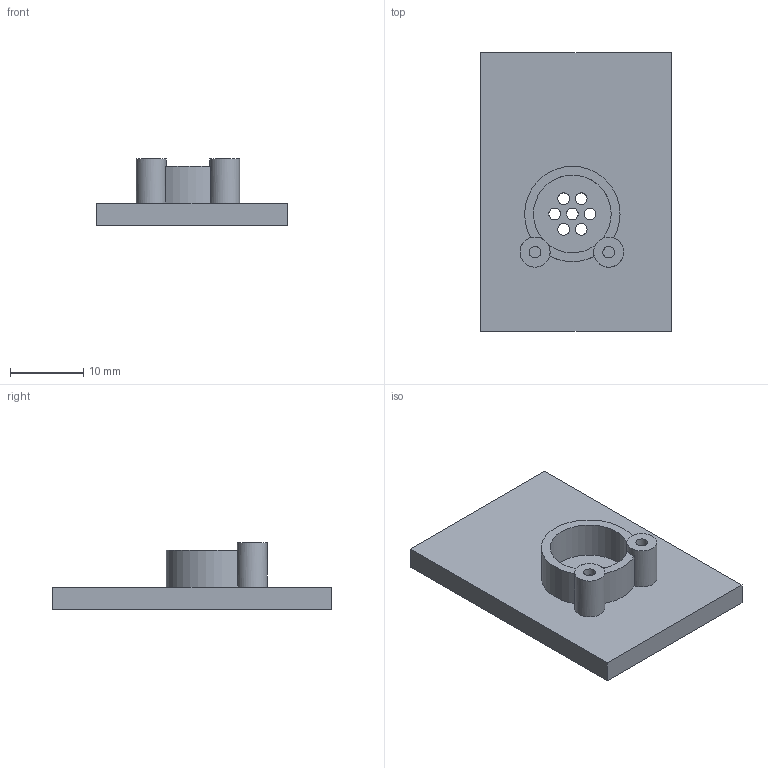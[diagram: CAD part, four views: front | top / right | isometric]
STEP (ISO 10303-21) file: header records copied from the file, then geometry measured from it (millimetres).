
FILE_DESCRIPTION(('Open CASCADE Model'),'2;1');
FILE_NAME('Open CASCADE Shape Model','2026-11-12T17:04:52',('Author'),( 'Open CASCADE'),'Open CASCADE STEP processor 7.8','Open CASCADE 7.8' ,'Unknown');
FILE_SCHEMA(('AUTOMOTIVE_DESIGN { 1 0 10303 214 1 1 1 1 }'));
Length unit declared in the file: millimetre
Products named in the file (1): Open CASCADE STEP translator 7.8 5
Bounding box: 26 x 38 x 9 mm (x, y, z)
Volume: 3244.4 mm3; surface area: 2947.8 mm2
Topology: 1 solids, 1 shells, 34 faces, 81 edges, 54 vertices
Faces by surface type: plane 17, cylinder 17
Full cylindrical faces by diameter (mm): 1.6 x9, 4.1 x2
Entity records: 2189 total; most frequent: CARTESIAN_POINT 506, DIRECTION 330, ORIENTED_EDGE 162, PCURVE 162, DEFINITIONAL_REPRESENTATION 162, LINE 151, VECTOR 151, AXIS2_PLACEMENT_3D 81
